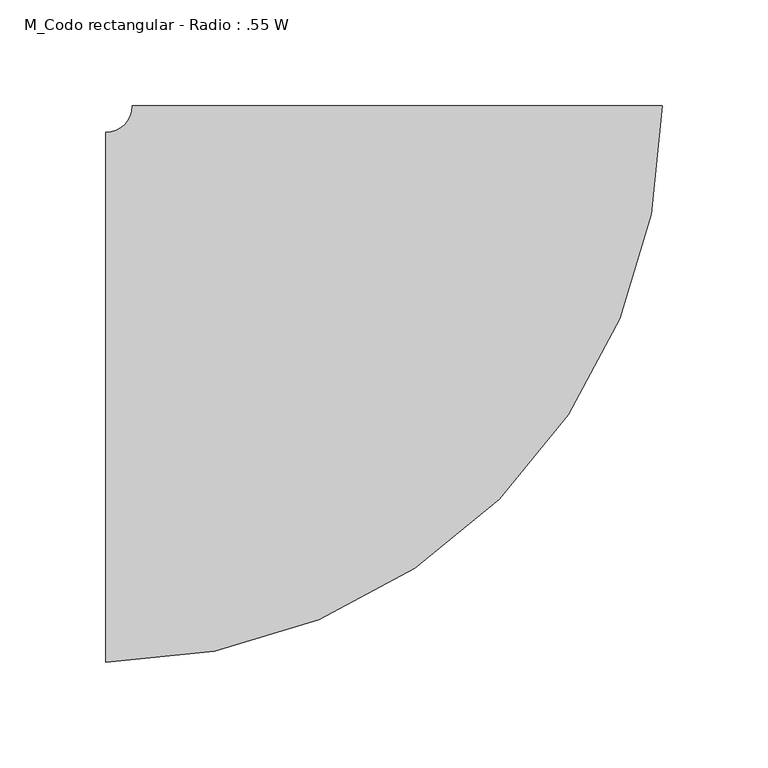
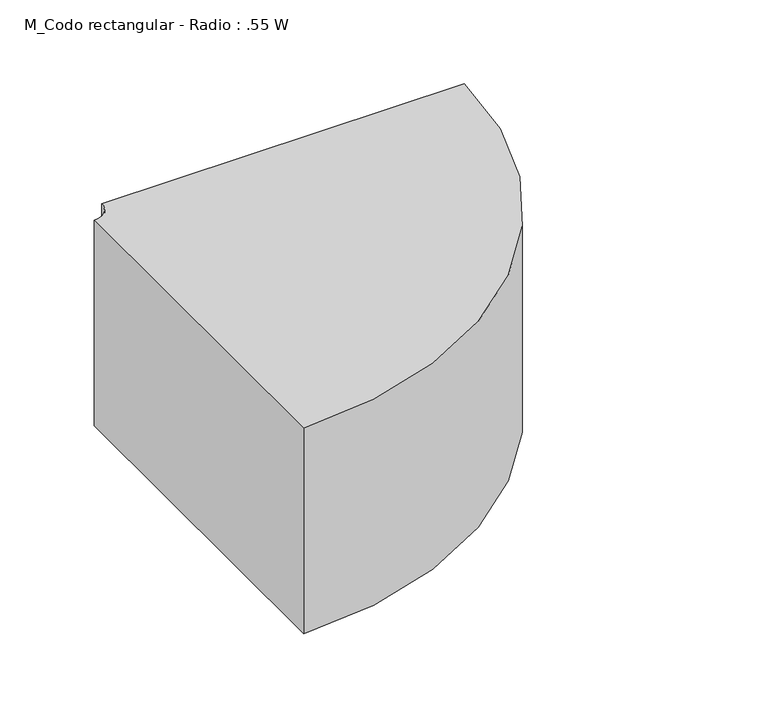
"""IFC4 building model written with IfcOpenShell, lengths in millimetres: duct fitting geometry, M_Codo rectangular - Radio : .55 W."""

from ifc_helpers import new_model, si_unit, point, frame, frame_2d, origin, place, context, project, spatial, polyline, circle_curve, trimmed, segment, composite_curve, outline, extrude, source, transform, mapped, element, save


def m_codo_rectangular_radio_55_w_2808ea8c(model_context):
    return source(origin(), model_context, "Body", "SweptSolid", [
        extrude(outline(composite_curve([segment(trimmed(circle_curve(frame_2d((-137.5, 137.5)), 262.5), [point((125.0, 137.5))], [point((-137.5, -125.0))], False, "CARTESIAN"), True, "CONTINUOUS"), segment(polyline([(-137.5, -125.0), (-137.5, 125.0)]), True, "CONTINUOUS"), segment(trimmed(circle_curve(frame_2d((-137.5, 137.5)), 12.5), [point((-137.5, 125.0))], [point((-125.0, 137.5))], True, "CARTESIAN"), True, "CONTINUOUS"), segment(polyline([(-125.0, 137.5), (125.0, 137.5)]), True, "CONTINUOUS")], self_intersect=False)), frame((0.0, 0.0, -75.0), z_axis=(0.0, 0.0, 1.0), x_axis=(1.0, 0.0, 0.0)), (0.0, 0.0, 1.0), 150.0),
    ])


if __name__ == "__main__":
    model = new_model("IFC4")
    model_context = context("Model", 3, world=origin())
    ifc_project = project(units=[si_unit("LENGTHUNIT", "METRE", prefix="MILLI")], contexts=[model_context])
    site = spatial("IfcSite", under=ifc_project)
    building = spatial("IfcBuilding", under=site)
    placement = place(None, origin())
    m_codo_rectangular_radio_55_w_shape = m_codo_rectangular_radio_55_w_2808ea8c(model_context)
    element("IfcDuctFitting", 1, ObjectType="M_Codo rectangular - Radio : .55 W", at=placement, inside=building, context=model_context, shape_type="MappedRepresentation", body=[
        mapped(m_codo_rectangular_radio_55_w_shape, transform((0.0, 0.0, 0.0), x_axis=(1.0, 0.0, 0.0), y_axis=(0.0, 1.0, 0.0), z_axis=(0.0, 0.0, 1.0))),
    ])
    save(model, "model.ifc")
